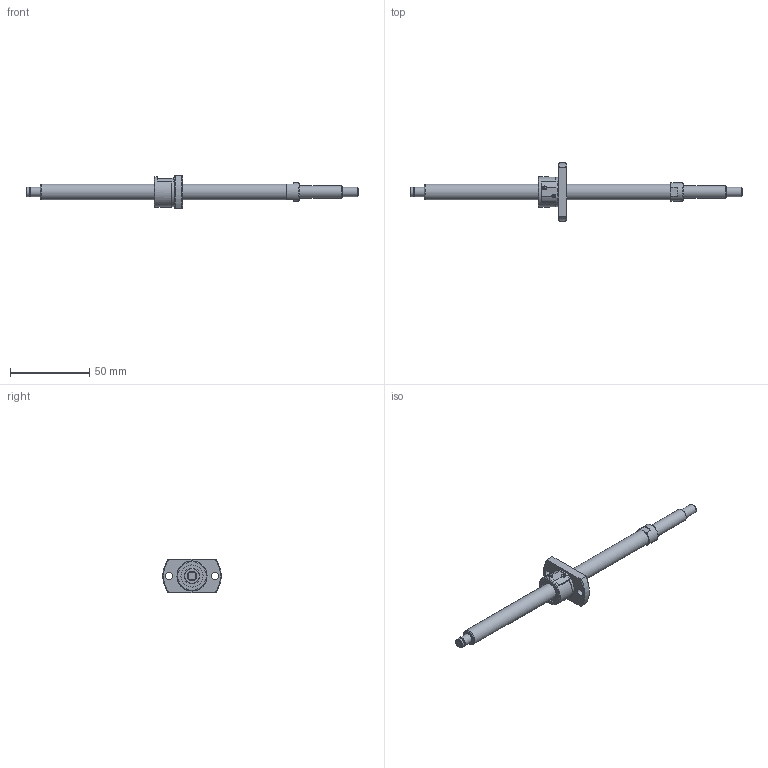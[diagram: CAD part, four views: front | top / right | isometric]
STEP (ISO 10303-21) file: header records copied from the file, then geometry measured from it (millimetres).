
FILE_DESCRIPTION(/* description */ ('STEP AP214'),/* implementation_level */ '2;1');
FILE_NAME(/* name */ 'SG1001-153R210C5B0X(72)',/* time_stamp */ '2026-07-24T15:10:46+02:00',/* author */ ('License CC BY-ND 4.0'),/* organization */ ('CADENAS'),/* preprocessor_version */ 'ST-DEVELOPER v20',/* originating_system */ 'PARTsolutions',/* authorisation */ ' ');
FILE_SCHEMA (('AUTOMOTIVE_DESIGN {1 0 10303 214 3 1 1}'));
Length unit declared in the file: millimetre
Products named in the file (3): SG1001-153R210C5B0X(72); SG1001-153R210C5B_shaft; SG1001 C5_nut
Assembly tree (2 placements, depth 2):
  SG1001-153R210C5B0X(72)
    SG1001-153R210C5B_shaft
    SG1001 C5_nut
Bounding box: 210 x 36.86 x 21 mm (x, y, z)
Volume: 20435.5 mm3; surface area: 9689.3 mm2
Topology: 2 solids, 2 shells, 81 faces, 194 edges, 127 vertices
Faces by surface type: plane 38, cylinder 28, cone 14, torus 1
Full cylindrical faces by diameter (mm): 4.5 x2, 5.7 x1, 6 x3, 8 x1, 10 x2, 11.5 x1, 14 x2, 18.5 x1, 19 x1
Entity records: 2265 total; most frequent: CARTESIAN_POINT 428, DIRECTION 382, ORIENTED_EDGE 318, AXIS2_PLACEMENT_3D 161, EDGE_CURVE 159, EDGE_LOOP 122, FACE_BOUND 122, VERTEX_POINT 117
